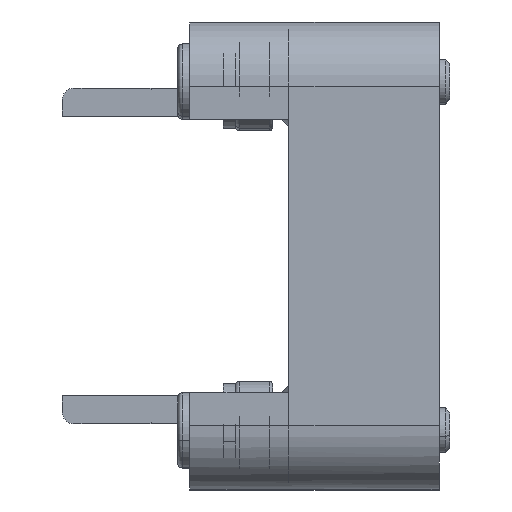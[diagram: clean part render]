
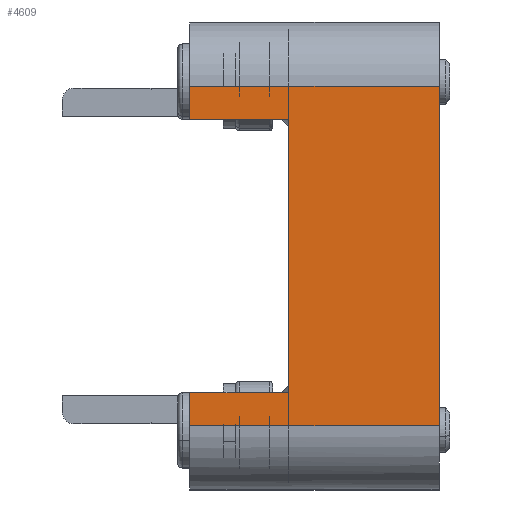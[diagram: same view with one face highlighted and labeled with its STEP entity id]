
A CAD part, left-side view. The second image highlights one B-rep face of the part: STEP entity #4609.
In plain terms, the highlighted planar face has unit normal (-1, 0, 0).
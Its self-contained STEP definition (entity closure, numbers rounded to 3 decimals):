
#105 = PLANE ( 'NONE',  #2827 ) ;
#136 = CARTESIAN_POINT ( 'NONE',  ( -185.256, 19.513, -27.5 ) ) ;
#144 = DIRECTION ( 'NONE',  ( 1., 0., 0. ) ) ;
#146 = DIRECTION ( 'NONE',  ( 0., 0., -1. ) ) ;
#790 = VECTOR ( 'NONE', #9003, 1000. ) ;
#794 = LINE ( 'NONE', #9014, #790 ) ;
#1155 = FACE_OUTER_BOUND ( 'NONE', #3139, .T. ) ;
#1777 = VECTOR ( 'NONE', #11171, 1000. ) ;
#1783 = LINE ( 'NONE', #11184, #1839 ) ;
#1784 = LINE ( 'NONE', #11177, #1836 ) ;
#1830 = VECTOR ( 'NONE', #11192, 1000. ) ;
#1831 = LINE ( 'NONE', #11173, #1830 ) ;
#1833 = LINE ( 'NONE', #11191, #1777 ) ;
#1836 = VECTOR ( 'NONE', #11175, 1000. ) ;
#1837 = VECTOR ( 'NONE', #11178, 1000. ) ;
#1838 = LINE ( 'NONE', #11180, #1837 ) ;
#1839 = VECTOR ( 'NONE', #11181, 1000. ) ;
#1840 = VECTOR ( 'NONE', #11185, 1000. ) ;
#1841 = LINE ( 'NONE', #11187, #1840 ) ;
#2827 = AXIS2_PLACEMENT_3D ( 'NONE', #136, #144, #146 ) ;
#3139 = EDGE_LOOP ( 'NONE', ( #7563, #7561, #7559, #7556, #7554, #7552, #7550, #7548 ) ) ;
#3293 = VERTEX_POINT ( 'NONE', #7534 ) ;
#3313 = VERTEX_POINT ( 'NONE', #7686 ) ;
#3438 = VERTEX_POINT ( 'NONE', #6314 ) ;
#3492 = VERTEX_POINT ( 'NONE', #6618 ) ;
#3504 = VERTEX_POINT ( 'NONE', #6527 ) ;
#3522 = VERTEX_POINT ( 'NONE', #6582 ) ;
#3529 = VERTEX_POINT ( 'NONE', #6642 ) ;
#3950 = LINE ( 'NONE', #11250, #4073 ) ;
#4073 = VECTOR ( 'NONE', #11261, 1000. ) ;
#4609 = ADVANCED_FACE ( 'NONE', ( #1155 ), #105, .F. ) ;
#5123 = CARTESIAN_POINT ( 'NONE',  ( -185.256, 19.513, -18.1 ) ) ;
#5981 = EDGE_CURVE ( 'NONE', #3529, #3522, #794, .T. ) ;
#6314 = CARTESIAN_POINT ( 'NONE',  ( -185.256, 32.513, -18.1 ) ) ;
#6527 = CARTESIAN_POINT ( 'NONE',  ( -185.256, -0.487, -22.5 ) ) ;
#6582 = CARTESIAN_POINT ( 'NONE',  ( -185.256, -0.487, 22.5 ) ) ;
#6618 = CARTESIAN_POINT ( 'NONE',  ( -185.256, 32.513, -22.5 ) ) ;
#6642 = CARTESIAN_POINT ( 'NONE',  ( -185.256, 32.513, 22.5 ) ) ;
#7534 = CARTESIAN_POINT ( 'NONE',  ( -185.256, 32.513, 18.1 ) ) ;
#7548 = ORIENTED_EDGE ( 'NONE', *, *, #9579, .T. ) ;
#7550 = ORIENTED_EDGE ( 'NONE', *, *, #9577, .F. ) ;
#7552 = ORIENTED_EDGE ( 'NONE', *, *, #5981, .F. ) ;
#7554 = ORIENTED_EDGE ( 'NONE', *, *, #9575, .T. ) ;
#7556 = ORIENTED_EDGE ( 'NONE', *, *, #9574, .T. ) ;
#7559 = ORIENTED_EDGE ( 'NONE', *, *, #9449, .T. ) ;
#7561 = ORIENTED_EDGE ( 'NONE', *, *, #9573, .F. ) ;
#7563 = ORIENTED_EDGE ( 'NONE', *, *, #9572, .F. ) ;
#7686 = CARTESIAN_POINT ( 'NONE',  ( -185.256, 19.513, 18.1 ) ) ;
#8032 = VERTEX_POINT ( 'NONE', #5123 ) ;
#9003 = DIRECTION ( 'NONE',  ( 0., -1., 0. ) ) ;
#9014 = CARTESIAN_POINT ( 'NONE',  ( -185.256, 19.513, 22.5 ) ) ;
#9449 = EDGE_CURVE ( 'NONE', #3438, #3492, #3950, .T. ) ;
#9572 = EDGE_CURVE ( 'NONE', #8032, #3313, #1841, .T. ) ;
#9573 = EDGE_CURVE ( 'NONE', #3438, #8032, #1783, .T. ) ;
#9574 = EDGE_CURVE ( 'NONE', #3492, #3504, #1838, .T. ) ;
#9575 = EDGE_CURVE ( 'NONE', #3504, #3522, #1784, .T. ) ;
#9577 = EDGE_CURVE ( 'NONE', #3293, #3529, #1833, .T. ) ;
#9579 = EDGE_CURVE ( 'NONE', #3293, #3313, #1831, .T. ) ;
#11171 = DIRECTION ( 'NONE',  ( 0., 0., 1. ) ) ;
#11173 = CARTESIAN_POINT ( 'NONE',  ( -185.256, 32.513, 18.1 ) ) ;
#11175 = DIRECTION ( 'NONE',  ( 0., 0., 1. ) ) ;
#11177 = CARTESIAN_POINT ( 'NONE',  ( -185.256, -0.487, -27.5 ) ) ;
#11178 = DIRECTION ( 'NONE',  ( 0., -1., 0. ) ) ;
#11180 = CARTESIAN_POINT ( 'NONE',  ( -185.256, 19.513, -22.5 ) ) ;
#11181 = DIRECTION ( 'NONE',  ( 0., -1., 0. ) ) ;
#11184 = CARTESIAN_POINT ( 'NONE',  ( -185.256, 32.513, -18.1 ) ) ;
#11185 = DIRECTION ( 'NONE',  ( 0., 0., 1. ) ) ;
#11187 = CARTESIAN_POINT ( 'NONE',  ( -185.256, 19.513, -27.5 ) ) ;
#11191 = CARTESIAN_POINT ( 'NONE',  ( -185.256, 32.513, 22.5 ) ) ;
#11192 = DIRECTION ( 'NONE',  ( 0., -1., 0. ) ) ;
#11250 = CARTESIAN_POINT ( 'NONE',  ( -185.256, 32.513, -22.5 ) ) ;
#11261 = DIRECTION ( 'NONE',  ( 0., 0., -1. ) ) ;
